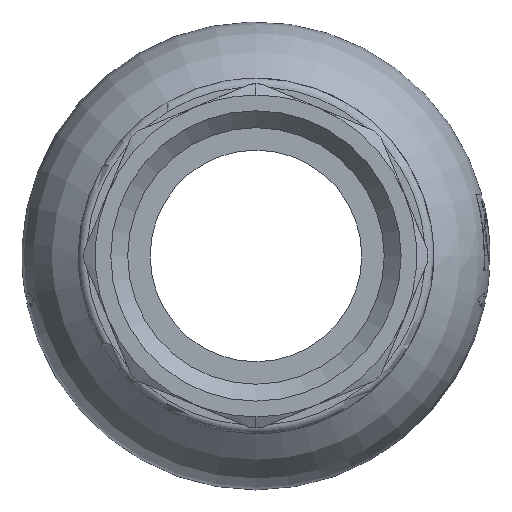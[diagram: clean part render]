
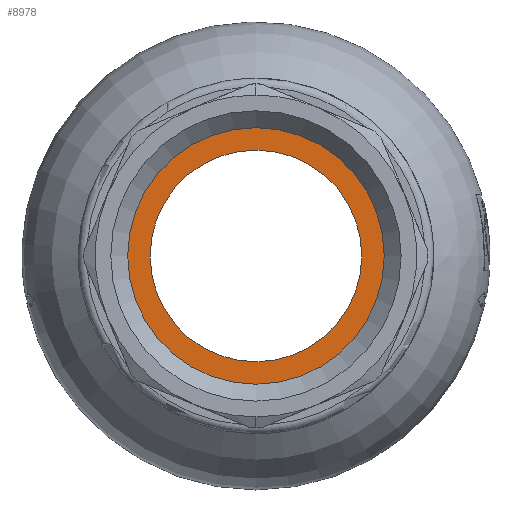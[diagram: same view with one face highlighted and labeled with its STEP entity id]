
A CAD part, left-side view. The second image highlights one B-rep face of the part: STEP entity #8978.
In plain terms, the highlighted planar face has unit normal (-1, 0, 0).
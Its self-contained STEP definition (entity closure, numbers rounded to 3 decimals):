
#8922=CARTESIAN_POINT('',(13.954,-0.,-15.15));
#8923=VERTEX_POINT('',#8922);
#8932=CARTESIAN_POINT('',(13.954,-0.,0.));
#8933=DIRECTION('',(1.,0.,-0.));
#8934=DIRECTION('',(-0.,0.,-1.));
#8935=AXIS2_PLACEMENT_3D('',#8932,#8933,#8934);
#8936=CIRCLE('',#8935,15.15);
#8937=EDGE_CURVE('',#8923,#8923,#8936,.T.);
#8959=CARTESIAN_POINT('',(13.954,-0.,0.));
#8960=DIRECTION('',(1.,0.,-0.));
#8961=DIRECTION('',(-0.,0.,-1.));
#8962=AXIS2_PLACEMENT_3D('',#8959,#8960,#8961);
#8963=PLANE('',#8962);
#8964=CARTESIAN_POINT('',(13.954,-0.,-12.5));
#8965=VERTEX_POINT('',#8964);
#8966=CARTESIAN_POINT('',(13.954,-0.,0.));
#8967=DIRECTION('',(1.,0.,-0.));
#8968=DIRECTION('',(-0.,0.,-1.));
#8969=AXIS2_PLACEMENT_3D('',#8966,#8967,#8968);
#8970=CIRCLE('',#8969,12.5);
#8971=EDGE_CURVE('',#8965,#8965,#8970,.T.);
#8972=ORIENTED_EDGE('',*,*,#8971,.T.);
#8973=EDGE_LOOP('',(#8972));
#8974=FACE_BOUND('',#8973,.T.);
#8975=ORIENTED_EDGE('',*,*,#8937,.F.);
#8976=EDGE_LOOP('',(#8975));
#8977=FACE_BOUND('',#8976,.T.);
#8978=ADVANCED_FACE('',(#8974,#8977),#8963,.F.);
